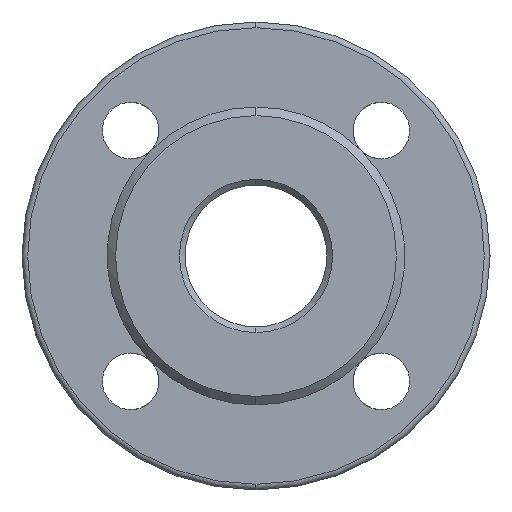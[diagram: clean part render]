
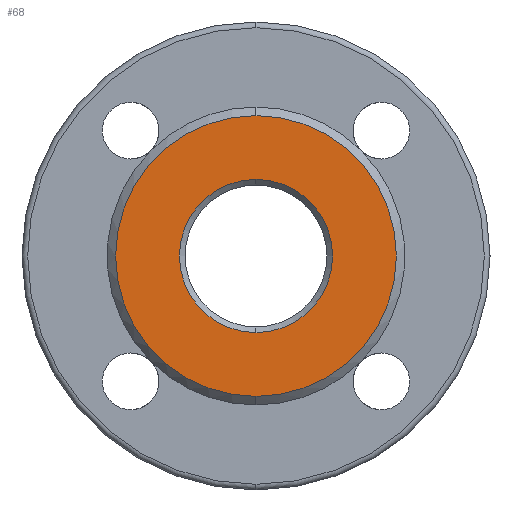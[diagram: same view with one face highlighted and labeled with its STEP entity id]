
A CAD part, left-side view. The second image highlights one B-rep face of the part: STEP entity #68.
In plain terms, the highlighted planar face has unit normal (-1, 0, 0).
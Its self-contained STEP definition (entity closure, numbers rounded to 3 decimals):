
#41 = AXIS2_PLACEMENT_3D ( 'NONE', #1713, #2179, #2676 ) ;
#68 = ADVANCED_FACE ( 'Defeatured_0_3', ( #239, #3818 ), #4240, .F. ) ;
#239 = FACE_BOUND ( 'NONE', #1156, .T. ) ;
#344 = DIRECTION ( 'NONE',  ( 1., 0., 0. ) ) ;
#385 = ORIENTED_EDGE ( 'NONE', *, *, #4278, .T. ) ;
#547 = DIRECTION ( 'NONE',  ( -1., 0., 0. ) ) ;
#553 = AXIS2_PLACEMENT_3D ( 'NONE', #2899, #1525, #3735 ) ;
#1156 = EDGE_LOOP ( 'NONE', ( #5332, #1348 ) ) ;
#1348 = ORIENTED_EDGE ( 'NONE', *, *, #2110, .T. ) ;
#1488 = VERTEX_POINT ( 'NONE', #2245 ) ;
#1525 = DIRECTION ( 'NONE',  ( 1., 0., 0. ) ) ;
#1713 = CARTESIAN_POINT ( 'NONE',  ( -250., 0., 0. ) ) ;
#1802 = EDGE_LOOP ( 'NONE', ( #4964, #385 ) ) ;
#1917 = AXIS2_PLACEMENT_3D ( 'NONE', #4803, #344, #4022 ) ;
#2056 = CIRCLE ( 'NONE', #2810, 27. ) ;
#2110 = EDGE_CURVE ( 'Defeatured_0_3+Defeatured_0_16+Defeatured_0_16+Defeatured_0_16', #1488, #5200, #2056, .T. ) ;
#2179 = DIRECTION ( 'NONE',  ( -1., 0., 0. ) ) ;
#2245 = CARTESIAN_POINT ( 'NONE',  ( -250., 0., -27. ) ) ;
#2676 = DIRECTION ( 'NONE',  ( 0., 0., 1. ) ) ;
#2712 = DIRECTION ( 'NONE',  ( 0., 0., 1. ) ) ;
#2810 = AXIS2_PLACEMENT_3D ( 'NONE', #3009, #4748, #3497 ) ;
#2899 = CARTESIAN_POINT ( 'NONE',  ( -250., 25., 0. ) ) ;
#3009 = CARTESIAN_POINT ( 'NONE',  ( -250., 0., 0. ) ) ;
#3339 = CARTESIAN_POINT ( 'NONE',  ( -250., 0., -49.5 ) ) ;
#3497 = DIRECTION ( 'NONE',  ( 0., 0., -1. ) ) ;
#3563 = VERTEX_POINT ( 'NONE', #5759 ) ;
#3690 = CARTESIAN_POINT ( 'NONE',  ( -250., 0., 0. ) ) ;
#3735 = DIRECTION ( 'NONE',  ( 0., 0., -1. ) ) ;
#3815 = VERTEX_POINT ( 'NONE', #3339 ) ;
#3818 = FACE_OUTER_BOUND ( 'NONE', #1802, .T. ) ;
#3841 = CARTESIAN_POINT ( 'NONE',  ( -250., 0., 27. ) ) ;
#4022 = DIRECTION ( 'NONE',  ( 0., 0., -1. ) ) ;
#4240 = PLANE ( 'NONE',  #553 ) ;
#4278 = EDGE_CURVE ( 'Defeatured_0_3+Defeatured_0_4+Defeatured_0_4+Defeatured_0_4', #3563, #3815, #5434, .T. ) ;
#4324 = AXIS2_PLACEMENT_3D ( 'NONE', #3690, #547, #2712 ) ;
#4419 = CIRCLE ( 'NONE', #1917, 27. ) ;
#4447 = EDGE_CURVE ( 'Defeatured_0_3+Defeatured_0_4+Defeatured_0_4+Defeatured_0_4', #3815, #3563, #5619, .T. ) ;
#4748 = DIRECTION ( 'NONE',  ( 1., 0., 0. ) ) ;
#4803 = CARTESIAN_POINT ( 'NONE',  ( -250., 0., 0. ) ) ;
#4964 = ORIENTED_EDGE ( 'NONE', *, *, #4447, .T. ) ;
#5200 = VERTEX_POINT ( 'NONE', #3841 ) ;
#5323 = EDGE_CURVE ( 'Defeatured_0_3+Defeatured_0_16+Defeatured_0_16+Defeatured_0_16', #5200, #1488, #4419, .T. ) ;
#5332 = ORIENTED_EDGE ( 'NONE', *, *, #5323, .T. ) ;
#5434 = CIRCLE ( 'NONE', #41, 49.5 ) ;
#5619 = CIRCLE ( 'NONE', #4324, 49.5 ) ;
#5759 = CARTESIAN_POINT ( 'NONE',  ( -250., 0., 49.5 ) ) ;
